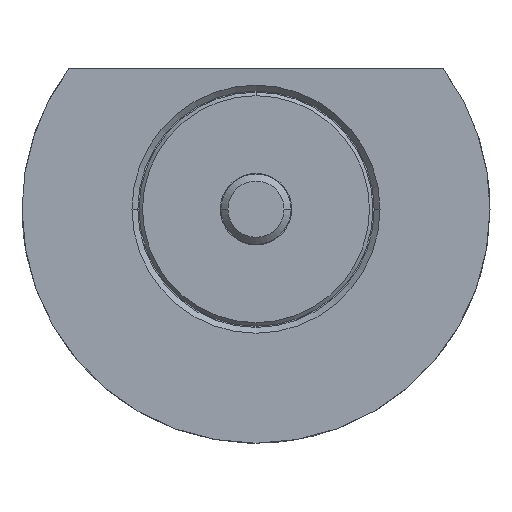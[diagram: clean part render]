
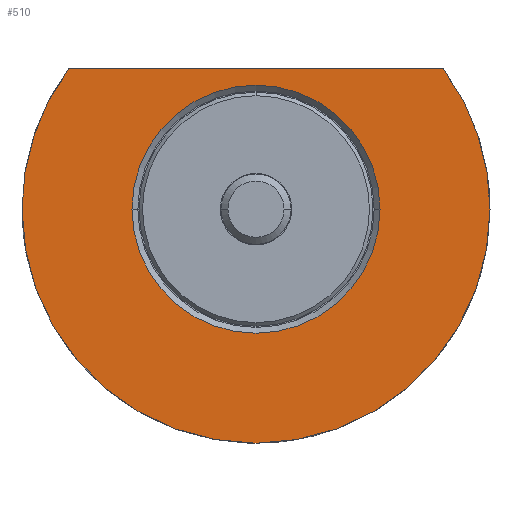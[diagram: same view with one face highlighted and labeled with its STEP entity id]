
A CAD part, front view. The second image highlights one B-rep face of the part: STEP entity #510.
In plain terms, the highlighted planar face has unit normal (0, -1, 0).
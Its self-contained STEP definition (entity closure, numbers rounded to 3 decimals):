
#1 = CIRCLE ( 'NONE', #1466, 10.6 ) ;
#25 = CIRCLE ( 'NONE', #2395, 20. ) ;
#54 = VERTEX_POINT ( 'NONE', #164 ) ;
#89 = DIRECTION ( 'NONE',  ( 1., 0., 0. ) ) ;
#109 = DIRECTION ( 'NONE',  ( 0., 1., 0. ) ) ;
#150 = CIRCLE ( 'NONE', #2048, 20. ) ;
#164 = CARTESIAN_POINT ( 'NONE',  ( -20., -10., 0. ) ) ;
#299 = VERTEX_POINT ( 'NONE', #519 ) ;
#409 = DIRECTION ( 'NONE',  ( -1., 0., 0. ) ) ;
#472 = EDGE_LOOP ( 'NONE', ( #2402, #2190 ) ) ;
#474 = DIRECTION ( 'NONE',  ( 0., -1., 0. ) ) ;
#483 = DIRECTION ( 'NONE',  ( -1., 0., 0. ) ) ;
#509 = CARTESIAN_POINT ( 'NONE',  ( 16.001, -10., 11.999 ) ) ;
#510 = ADVANCED_FACE ( 'NONE', ( #1298, #1738 ), #1894, .T. ) ;
#516 = AXIS2_PLACEMENT_3D ( 'NONE', #704, #474, #89 ) ;
#518 = DIRECTION ( 'NONE',  ( -1., 0., 0. ) ) ;
#519 = CARTESIAN_POINT ( 'NONE',  ( 10.6, -10., 0. ) ) ;
#647 = CIRCLE ( 'NONE', #694, 20. ) ;
#678 = ORIENTED_EDGE ( 'NONE', *, *, #821, .F. ) ;
#694 = AXIS2_PLACEMENT_3D ( 'NONE', #1268, #2105, #2218 ) ;
#704 = CARTESIAN_POINT ( 'NONE',  ( -10.6, -10., 0. ) ) ;
#730 = CARTESIAN_POINT ( 'NONE',  ( 20., -10., 0. ) ) ;
#786 = EDGE_CURVE ( 'NONE', #1863, #1972, #647, .T. ) ;
#816 = AXIS2_PLACEMENT_3D ( 'NONE', #2064, #1848, #409 ) ;
#821 = EDGE_CURVE ( 'NONE', #1972, #54, #25, .T. ) ;
#942 = EDGE_LOOP ( 'NONE', ( #1954, #1603, #1383, #678 ) ) ;
#1016 = EDGE_CURVE ( 'NONE', #54, #2586, #150, .T. ) ;
#1207 = CARTESIAN_POINT ( 'NONE',  ( -10.6, -10., 11.999 ) ) ;
#1245 = LINE ( 'NONE', #1207, #1409 ) ;
#1268 = CARTESIAN_POINT ( 'NONE',  ( 0., -10., 0. ) ) ;
#1281 = CIRCLE ( 'NONE', #816, 10.6 ) ;
#1298 = FACE_BOUND ( 'NONE', #472, .T. ) ;
#1304 = CARTESIAN_POINT ( 'NONE',  ( 0., -10., 0. ) ) ;
#1383 = ORIENTED_EDGE ( 'NONE', *, *, #1016, .F. ) ;
#1385 = EDGE_CURVE ( 'NONE', #299, #1884, #1, .T. ) ;
#1409 = VECTOR ( 'NONE', #2268, 1000. ) ;
#1466 = AXIS2_PLACEMENT_3D ( 'NONE', #1761, #1897, #518 ) ;
#1565 = DIRECTION ( 'NONE',  ( -1., 0., 0. ) ) ;
#1603 = ORIENTED_EDGE ( 'NONE', *, *, #2206, .T. ) ;
#1633 = CARTESIAN_POINT ( 'NONE',  ( 0., -10., 0. ) ) ;
#1738 = FACE_OUTER_BOUND ( 'NONE', #942, .T. ) ;
#1761 = CARTESIAN_POINT ( 'NONE',  ( 0., -10., 0. ) ) ;
#1825 = DIRECTION ( 'NONE',  ( 0., 1., 0. ) ) ;
#1848 = DIRECTION ( 'NONE',  ( 0., 1., 0. ) ) ;
#1863 = VERTEX_POINT ( 'NONE', #509 ) ;
#1884 = VERTEX_POINT ( 'NONE', #2508 ) ;
#1894 = PLANE ( 'NONE',  #516 ) ;
#1897 = DIRECTION ( 'NONE',  ( 0., 1., 0. ) ) ;
#1954 = ORIENTED_EDGE ( 'NONE', *, *, #786, .F. ) ;
#1972 = VERTEX_POINT ( 'NONE', #730 ) ;
#2048 = AXIS2_PLACEMENT_3D ( 'NONE', #1304, #109, #1565 ) ;
#2064 = CARTESIAN_POINT ( 'NONE',  ( 0., -10., 0. ) ) ;
#2082 = CARTESIAN_POINT ( 'NONE',  ( -16.001, -10., 11.999 ) ) ;
#2105 = DIRECTION ( 'NONE',  ( 0., 1., 0. ) ) ;
#2128 = EDGE_CURVE ( 'NONE', #1884, #299, #1281, .T. ) ;
#2190 = ORIENTED_EDGE ( 'NONE', *, *, #2128, .T. ) ;
#2206 = EDGE_CURVE ( 'NONE', #1863, #2586, #1245, .T. ) ;
#2218 = DIRECTION ( 'NONE',  ( -1., 0., 0. ) ) ;
#2268 = DIRECTION ( 'NONE',  ( -1., 0., 0. ) ) ;
#2395 = AXIS2_PLACEMENT_3D ( 'NONE', #1633, #1825, #483 ) ;
#2402 = ORIENTED_EDGE ( 'NONE', *, *, #1385, .T. ) ;
#2508 = CARTESIAN_POINT ( 'NONE',  ( -10.6, -10., 0. ) ) ;
#2586 = VERTEX_POINT ( 'NONE', #2082 ) ;
